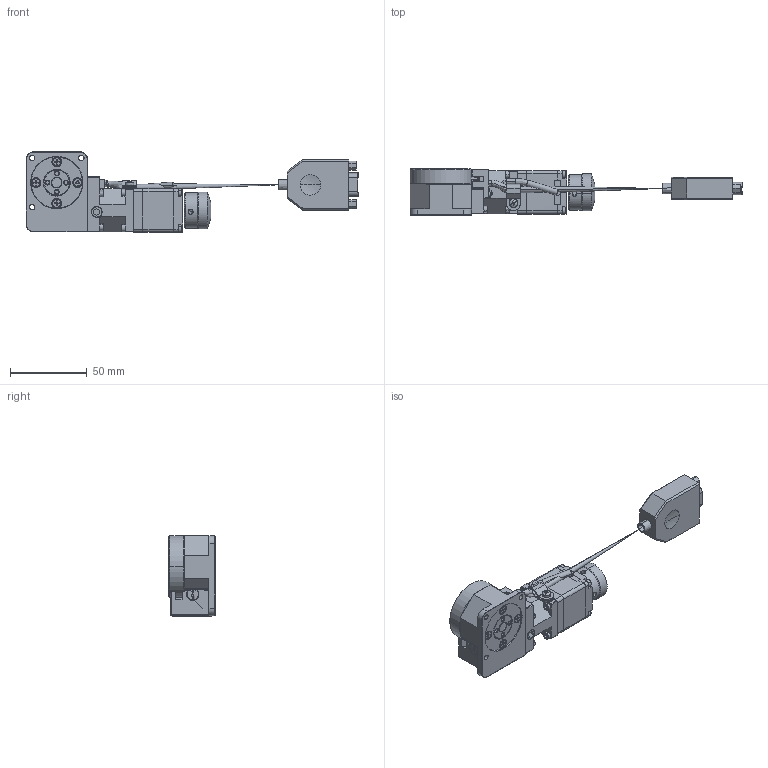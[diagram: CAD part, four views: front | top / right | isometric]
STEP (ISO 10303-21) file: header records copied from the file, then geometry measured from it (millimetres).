
FILE_DESCRIPTION (( 'STEP AP203' ), '1' );
FILE_NAME ('PX-GD40Z.STEP', '2022-09-03T06:34:56', ( '' ), ( '' ), 'SwSTEP 2.0', 'SolidWorks 2020', '' );
FILE_SCHEMA (( 'CONFIG_CONTROL_DESIGN' ));
Length unit declared in the file: millimetre
Products named in the file (1): PX-GD40Z
Bounding box: 215.9 x 30 x 52.22 mm (x, y, z)
Surface area: 33824.7 mm2 (no closed solid volume)
Topology: 0 solids, 36 shells, 902 faces, 2446 edges, 1555 vertices
Faces by surface type: plane 480, cylinder 223, bspline 124, cone 75
Entity records: 38834 total; most frequent: CARTESIAN_POINT 21210, ORIENTED_EDGE 4518, EDGE_CURVE 2354, B_SPLINE_CURVE_WITH_KNOTS 1912, DIRECTION 1894, VERTEX_POINT 1553, EDGE_LOOP 1034, ADVANCED_FACE 902
